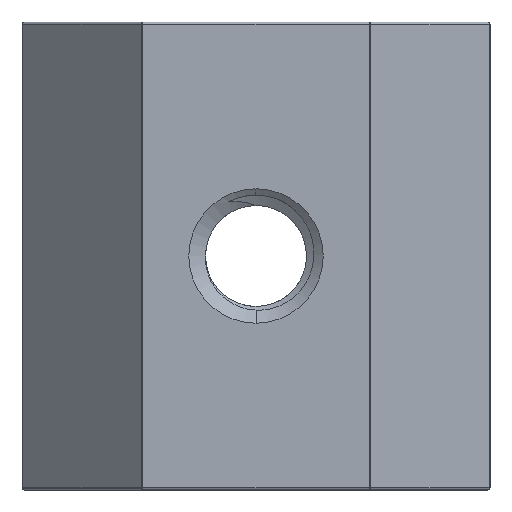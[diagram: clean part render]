
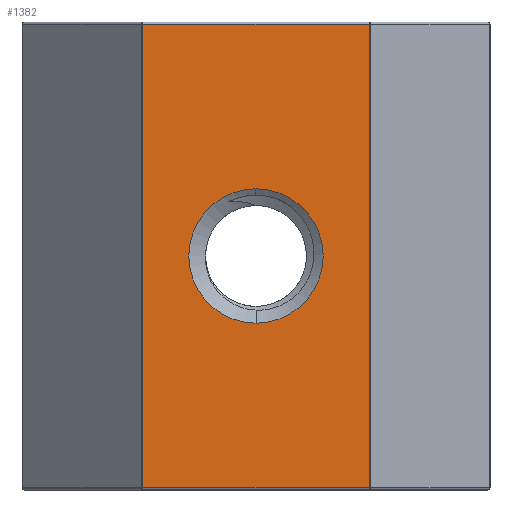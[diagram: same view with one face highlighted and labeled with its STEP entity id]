
A CAD part, front view. The second image highlights one B-rep face of the part: STEP entity #1382.
In plain terms, the highlighted planar face has unit normal (0, -1, 0).
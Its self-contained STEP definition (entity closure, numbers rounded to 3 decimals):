
#9 = CARTESIAN_POINT ( 'NONE',  ( 4.709, -4.75, -9.65 ) ) ;
#13 = ORIENTED_EDGE ( 'NONE', *, *, #1183, .T. ) ;
#108 = AXIS2_PLACEMENT_3D ( 'NONE', #1613, #3164, #2369 ) ;
#170 = VECTOR ( 'NONE', #4088, 1000. ) ;
#191 = CARTESIAN_POINT ( 'NONE',  ( -9.75, -4.75, 9.75 ) ) ;
#270 = VERTEX_POINT ( 'NONE', #812 ) ;
#635 = EDGE_LOOP ( 'NONE', ( #3489, #3661, #1986, #13 ) ) ;
#664 = FACE_BOUND ( 'NONE', #4542, .T. ) ;
#665 = LINE ( 'NONE', #4113, #170 ) ;
#795 = VECTOR ( 'NONE', #4925, 1000. ) ;
#812 = CARTESIAN_POINT ( 'NONE',  ( 0., -4.75, -2.8 ) ) ;
#892 = DIRECTION ( 'NONE',  ( 1., 0., 0. ) ) ;
#918 = LINE ( 'NONE', #1245, #1837 ) ;
#1042 = AXIS2_PLACEMENT_3D ( 'NONE', #191, #2498, #1716 ) ;
#1136 = EDGE_CURVE ( 'NONE', #1891, #2372, #3414, .T. ) ;
#1183 = EDGE_CURVE ( 'NONE', #4458, #2874, #918, .T. ) ;
#1245 = CARTESIAN_POINT ( 'NONE',  ( -4.709, -4.75, 9.75 ) ) ;
#1302 = EDGE_CURVE ( 'NONE', #2874, #1891, #1595, .T. ) ;
#1382 = ADVANCED_FACE ( 'NONE', ( #2570, #664 ), #3593, .F. ) ;
#1514 = DIRECTION ( 'NONE',  ( 0., 0., 1. ) ) ;
#1595 = LINE ( 'NONE', #4255, #2960 ) ;
#1613 = CARTESIAN_POINT ( 'NONE',  ( 0., -4.75, 0. ) ) ;
#1716 = DIRECTION ( 'NONE',  ( 0., 0., 1. ) ) ;
#1837 = VECTOR ( 'NONE', #4276, 1000. ) ;
#1891 = VERTEX_POINT ( 'NONE', #9 ) ;
#1894 = CARTESIAN_POINT ( 'NONE',  ( 4.709, -4.75, 9.75 ) ) ;
#1986 = ORIENTED_EDGE ( 'NONE', *, *, #2508, .T. ) ;
#2181 = CARTESIAN_POINT ( 'NONE',  ( 0., -4.75, 0. ) ) ;
#2183 = CIRCLE ( 'NONE', #4099, 2.8 ) ;
#2369 = DIRECTION ( 'NONE',  ( 0., 0., 1. ) ) ;
#2372 = VERTEX_POINT ( 'NONE', #4433 ) ;
#2498 = DIRECTION ( 'NONE',  ( 0., 1., 0. ) ) ;
#2508 = EDGE_CURVE ( 'NONE', #2372, #4458, #665, .T. ) ;
#2570 = FACE_OUTER_BOUND ( 'NONE', #635, .T. ) ;
#2874 = VERTEX_POINT ( 'NONE', #3460 ) ;
#2960 = VECTOR ( 'NONE', #892, 1000. ) ;
#3164 = DIRECTION ( 'NONE',  ( 0., 1., 0. ) ) ;
#3414 = LINE ( 'NONE', #1894, #795 ) ;
#3460 = CARTESIAN_POINT ( 'NONE',  ( -4.709, -4.75, -9.65 ) ) ;
#3489 = ORIENTED_EDGE ( 'NONE', *, *, #1302, .T. ) ;
#3593 = PLANE ( 'NONE',  #1042 ) ;
#3661 = ORIENTED_EDGE ( 'NONE', *, *, #1136, .T. ) ;
#3667 = CARTESIAN_POINT ( 'NONE',  ( -4.709, -4.75, 9.65 ) ) ;
#3712 = DIRECTION ( 'NONE',  ( 0., 1., 0. ) ) ;
#3751 = ORIENTED_EDGE ( 'NONE', *, *, #4594, .T. ) ;
#4023 = EDGE_CURVE ( 'NONE', #4169, #270, #4246, .T. ) ;
#4088 = DIRECTION ( 'NONE',  ( -1., 0., 0. ) ) ;
#4099 = AXIS2_PLACEMENT_3D ( 'NONE', #2181, #3712, #1514 ) ;
#4113 = CARTESIAN_POINT ( 'NONE',  ( -9.75, -4.75, 9.65 ) ) ;
#4122 = ORIENTED_EDGE ( 'NONE', *, *, #4023, .T. ) ;
#4169 = VERTEX_POINT ( 'NONE', #4865 ) ;
#4246 = CIRCLE ( 'NONE', #108, 2.8 ) ;
#4255 = CARTESIAN_POINT ( 'NONE',  ( 4.75, -4.75, -9.65 ) ) ;
#4276 = DIRECTION ( 'NONE',  ( 0., 0., -1. ) ) ;
#4433 = CARTESIAN_POINT ( 'NONE',  ( 4.709, -4.75, 9.65 ) ) ;
#4458 = VERTEX_POINT ( 'NONE', #3667 ) ;
#4542 = EDGE_LOOP ( 'NONE', ( #4122, #3751 ) ) ;
#4594 = EDGE_CURVE ( 'NONE', #270, #4169, #2183, .T. ) ;
#4865 = CARTESIAN_POINT ( 'NONE',  ( 0., -4.75, 2.8 ) ) ;
#4925 = DIRECTION ( 'NONE',  ( 0., 0., 1. ) ) ;
